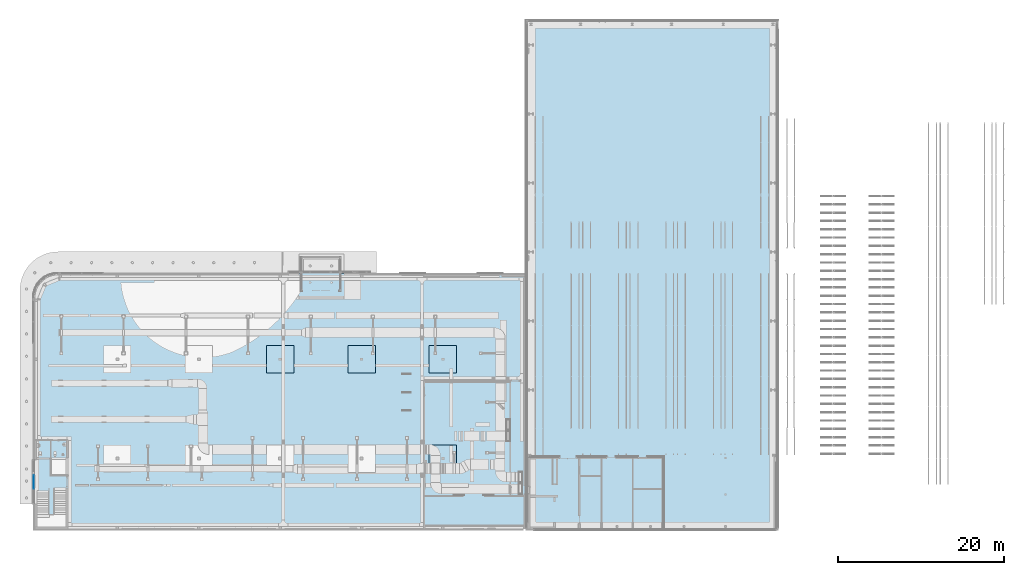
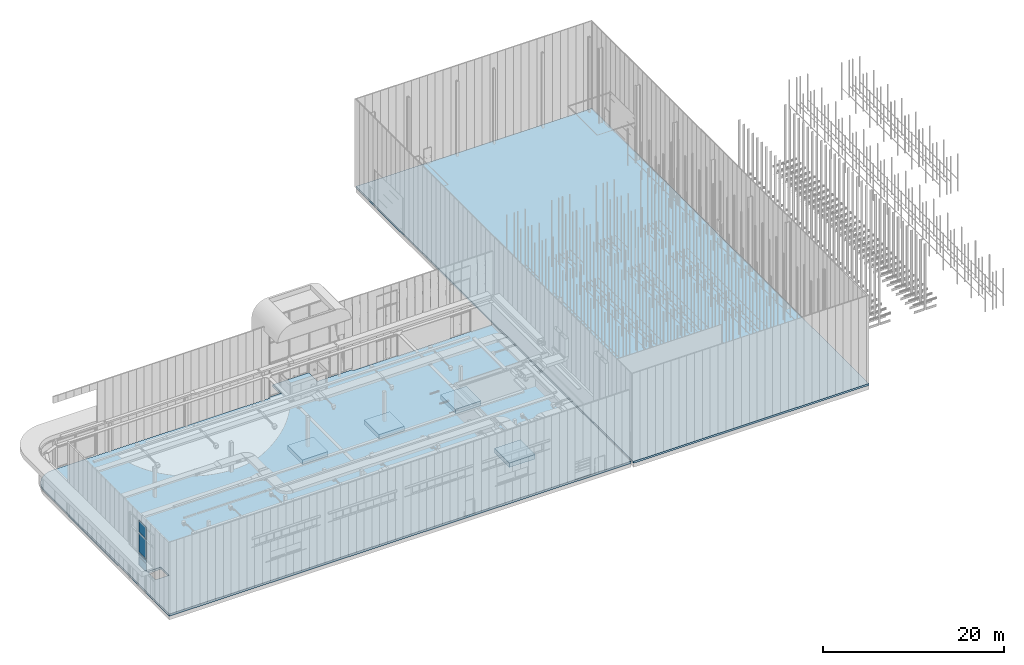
# One storey, part 207 of 302: 6 slabs, 4 plates, 1 opening, 1 element without a shape of its own.
"""IFC2X3 building model written with IfcOpenShell, lengths in metres."""

from ifc_helpers import new_model, entity, si_unit, converted_unit, derived_unit, direction, frame, frame_2d, origin, origin_2d_with_axis, place, context, subcontext, project, spatial, polyline, circle_curve, parameter, trimmed, segment, composite_curve, rectangle, outline, extrude, faceted_brep, source, transform, mapped, material, layer, layer_set, layer_usage, type_object, type_shapes, element, aggregate, save


model = new_model("IFC2X3")

# Units and contexts
model_context = context("Model", 3, precision=1e-05, world=origin(), true_north=direction((6.12303176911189e-17, 1.0)))
body_context = subcontext(model_context, "Body", "Model", "MODEL_VIEW")
ifc_project = project(units=[si_unit("LENGTHUNIT", "METRE"), si_unit("AREAUNIT", "SQUARE_METRE"), si_unit("VOLUMEUNIT", "CUBIC_METRE"), converted_unit("PLANEANGLEUNIT", "DEGREE", entity("IfcRatioMeasure", 0.0174532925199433), si_unit("PLANEANGLEUNIT", "RADIAN"), dimensions=[0, 0, 0, 0, 0, 0, 0]), si_unit("MASSUNIT", "GRAM", prefix="KILO"), derived_unit("MASSDENSITYUNIT", [(si_unit("MASSUNIT", "GRAM", prefix="KILO"), 1), (si_unit("LENGTHUNIT", "METRE"), -3)]), derived_unit("MOMENTOFINERTIAUNIT", [(si_unit("LENGTHUNIT", "METRE"), 4)]), si_unit("TIMEUNIT", "SECOND"), si_unit("FREQUENCYUNIT", "HERTZ"), si_unit("THERMODYNAMICTEMPERATUREUNIT", "DEGREE_CELSIUS"), derived_unit("THERMALTRANSMITTANCEUNIT", [(si_unit("MASSUNIT", "GRAM", prefix="KILO"), 1), (si_unit("THERMODYNAMICTEMPERATUREUNIT", "KELVIN"), -1), (si_unit("TIMEUNIT", "SECOND"), -3)]), derived_unit("VOLUMETRICFLOWRATEUNIT", [(si_unit("LENGTHUNIT", "METRE"), 3), (si_unit("TIMEUNIT", "SECOND"), -1)]), si_unit("ELECTRICCURRENTUNIT", "AMPERE"), si_unit("ELECTRICVOLTAGEUNIT", "VOLT"), si_unit("POWERUNIT", "WATT"), si_unit("FORCEUNIT", "NEWTON", prefix="KILO"), si_unit("ILLUMINANCEUNIT", "LUX"), si_unit("LUMINOUSFLUXUNIT", "LUMEN"), si_unit("LUMINOUSINTENSITYUNIT", "CANDELA"), derived_unit("USERDEFINED", [(si_unit("MASSUNIT", "GRAM", prefix="KILO"), -1), (si_unit("LENGTHUNIT", "METRE"), -2), (si_unit("TIMEUNIT", "SECOND"), 3), (si_unit("LUMINOUSFLUXUNIT", "LUMEN"), 1)]), derived_unit("LINEARVELOCITYUNIT", [(si_unit("LENGTHUNIT", "METRE"), 1), (si_unit("TIMEUNIT", "SECOND"), -1)]), si_unit("PRESSUREUNIT", "PASCAL"), derived_unit("USERDEFINED", [(si_unit("LENGTHUNIT", "METRE"), -2), (si_unit("MASSUNIT", "GRAM", prefix="KILO"), 1), (si_unit("TIMEUNIT", "SECOND"), -2)]), derived_unit("LINEARFORCEUNIT", [(si_unit("MASSUNIT", "GRAM", prefix="KILO"), 1), (si_unit("LENGTHUNIT", "METRE"), 1), (si_unit("TIMEUNIT", "SECOND"), -2), (si_unit("LENGTHUNIT", "METRE"), -1)]), derived_unit("PLANARFORCEUNIT", [(si_unit("MASSUNIT", "GRAM", prefix="KILO"), 1), (si_unit("LENGTHUNIT", "METRE"), 1), (si_unit("TIMEUNIT", "SECOND"), -2), (si_unit("LENGTHUNIT", "METRE"), -2)])], contexts=[model_context])

# Site, building, storey
site_placement = place(None, origin())
site = spatial("IfcSite", under=ifc_project, at=site_placement, Name="Default", CompositionType="ELEMENT")
building_placement = place(site_placement, origin())
building = spatial("IfcBuilding", under=site, at=building_placement, CompositionType="ELEMENT")
storey_placement = place(building_placement, frame((0.0, 0.0, -1.3)))
storey = spatial("IfcBuildingStorey", under=building, at=storey_placement, Name="00_EG", CompositionType="ELEMENT", Elevation=-1.3)

# Slab, opening
ifc_material_1 = material(Name="Concrete, default")
ifc_layer_1 = layer(ifc_material_1, 0.3)
ifc_layer_set_1 = layer_set([ifc_layer_1], Name="Bodenplatte:Bodenplatte 300mm")
ifc_layer_usage_1 = layer_usage(ifc_layer_set_1, "AXIS3", "POSITIVE", 0.0)
slab_type_1 = type_object("IfcSlabType", Name="Bodenplatte:Bodenplatte 300mm", PredefinedType="BASESLAB", material=ifc_layer_set_1)
slab_1_placement = place(storey_placement, frame((-266.660111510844, 14.998088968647, 0.969999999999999)))
slab_1 = element("IfcSlab", 1, at=slab_1_placement, inside=storey, type_object=slab_type_1, material=ifc_layer_usage_1, Name="Bodenplatte:Bodenplatte 300mm", ObjectType="Bodenplatte:Bodenplatte 300mm", PredefinedType="BASESLAB", context=body_context, shape_type="SweptSolid", body=[
    extrude(outline(composite_curve([segment(polyline([(-29.535, -16.3300001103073), (29.535, -16.3300001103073)]), True, "CONTINUOUS"), segment(polyline([(29.535, -16.3300001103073), (29.5349999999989, 11.4099998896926)]), True, "CONTINUOUS"), segment(trimmed(circle_curve(frame_2d((26.7149999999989, 11.4099998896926), x_axis=(-1.0, 0.0)), 2.81999999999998), [parameter(180.0)], [parameter(270.0)], True, "PARAMETER"), True, "CONTINUOUS"), segment(polyline([(26.7149999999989, 14.2299998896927), (-0.926249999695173, 14.2299998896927)]), True, "CONTINUOUS"), segment(polyline([(-0.926249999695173, 14.2299998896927), (-0.926249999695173, 14.4099998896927)]), True, "CONTINUOUS"), segment(polyline([(-0.926249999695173, 14.4099998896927), (-2.55525000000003, 14.4099998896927)]), True, "CONTINUOUS"), segment(polyline([(-2.55525000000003, 14.4099998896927), (-2.55525000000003, 16.3300001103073)]), True, "CONTINUOUS"), segment(polyline([(-2.55525000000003, 16.3300001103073), (-7.18724999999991, 16.3300001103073)]), True, "CONTINUOUS"), segment(polyline([(-7.18724999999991, 16.3300001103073), (-7.18724999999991, 14.4099998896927)]), True, "CONTINUOUS"), segment(polyline([(-7.18724999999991, 14.4099998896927), (-11.5902799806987, 14.4099998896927)]), True, "CONTINUOUS"), segment(polyline([(-11.5902799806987, 14.4099998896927), (-11.5902799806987, 14.2299998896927)]), True, "CONTINUOUS"), segment(polyline([(-11.5902799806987, 14.2299998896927), (-29.535, 14.2299998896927)]), True, "CONTINUOUS"), segment(polyline([(-29.535, 14.2299998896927), (-29.535, -16.3300001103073)]), True, "CONTINUOUS")], self_intersect=False)), frame((29.535, 16.3300001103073, 0.3), z_axis=(0.0, 0.0, -1.0), x_axis=(-1.0, 0.0, 0.0)), (0.0, 0.0, 1.0), 0.3),
])
opening_placement = place(slab_1_placement, frame((2.87499999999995, 7.425, 0.3)))
element("IfcOpeningElement", 2, at=opening_placement, cuts=slab_1, Name="Bodenplatte:Bodenplatte 300mm:2", ObjectType="Opening", context=body_context, shape_type="SweptSolid", body=[
    extrude(rectangle(XDim=1.8, YDim=1.74999999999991, at=origin_2d_with_axis()), frame((0.0, 0.0, 0.0), z_axis=(0.0, 0.0, -1.0), x_axis=(0.0, 1.0, 0.0)), (0.0, 0.0, 1.0), 0.3),
])

# Slabs
ifc_material_2 = material(Name="Concrete, Einzelfundament")
slab_type_2 = type_object("IfcSlabType", Name="Einzelfundament:Einzelfundament 3.30mx3.30m", PredefinedType="BASESLAB", material=ifc_material_2)
slab_2_placement = place(storey_placement, origin())
element("IfcSlab", 3, at=slab_2_placement, inside=storey, type_object=slab_type_2, Name="Einzelfundament:Einzelfundament 3.30mx3.30m", ObjectType="Einzelfundament:Einzelfundament 3.30mx3.30m", PredefinedType="BASESLAB", context=body_context, shape_type="SweptSolid", body=[
    extrude(rectangle(XDim=3.30000000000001, YDim=3.3, at=frame_2d((0.0, -2.1094237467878e-15), x_axis=(1.0, 0.0))), frame((-217.572611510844, 35.408088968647, 0.37), z_axis=(0.0, 0.0, 1.0), x_axis=(-1.0, 0.0, 0.0)), (0.0, 0.0, 1.0), 0.6),
])
slab_type_3 = type_object("IfcSlabType", Name="Einzelfundament:Einzelfundament 3.30mx3.30m", PredefinedType="BASESLAB", material=ifc_material_2)
slab_3_placement = place(storey_placement, origin())
element("IfcSlab", 4, at=slab_3_placement, inside=storey, type_object=slab_type_3, Name="Einzelfundament:Einzelfundament 3.30mx3.30m", ObjectType="Einzelfundament:Einzelfundament 3.30mx3.30m", PredefinedType="BASESLAB", context=body_context, shape_type="SweptSolid", body=[
    extrude(rectangle(XDim=3.30000000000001, YDim=3.3, at=frame_2d((0.0, -2.1094237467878e-15), x_axis=(1.0, 0.0))), frame((-227.360111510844, 35.4080889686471, 0.37), z_axis=(0.0, 0.0, 1.0), x_axis=(-1.0, 0.0, 0.0)), (0.0, 0.0, 1.0), 0.6),
])
slab_type_4 = type_object("IfcSlabType", Name="Einzelfundament:Einzelfundament 3.30mx3.30m", PredefinedType="BASESLAB", material=ifc_material_2)
slab_4_placement = place(storey_placement, origin())
element("IfcSlab", 5, at=slab_4_placement, inside=storey, type_object=slab_type_4, Name="Einzelfundament:Einzelfundament 3.30mx3.30m", ObjectType="Einzelfundament:Einzelfundament 3.30mx3.30m", PredefinedType="BASESLAB", context=body_context, shape_type="SweptSolid", body=[
    extrude(rectangle(XDim=3.30000000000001, YDim=3.3, at=frame_2d((0.0, 2.1094237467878e-15), x_axis=(1.0, 0.0))), frame((-237.147611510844, 35.4080889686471, 0.37), z_axis=(0.0, 0.0, 1.0), x_axis=(-1.0, 0.0, 0.0)), (0.0, 0.0, 1.0), 0.6),
])
slab_type_5 = type_object("IfcSlabType", Name="Einzelfundament:Einzelfundament 3.30mx3.30m", PredefinedType="BASESLAB", material=ifc_material_2)
slab_5_placement = place(storey_placement, origin())
element("IfcSlab", 6, at=slab_5_placement, inside=storey, type_object=slab_type_5, Name="Einzelfundament:Einzelfundament 3.30mx3.30m", ObjectType="Einzelfundament:Einzelfundament 3.30mx3.30m", PredefinedType="BASESLAB", context=body_context, shape_type="SweptSolid", body=[
    extrude(rectangle(XDim=3.30000000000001, YDim=3.3, at=frame_2d((0.0, -2.1094237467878e-15), x_axis=(1.0, 0.0))), frame((-217.572611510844, 23.448088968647, 0.37), z_axis=(0.0, 0.0, 1.0), x_axis=(-1.0, 0.0, 0.0)), (0.0, 0.0, 1.0), 0.6),
])

# Curtain wall, plates
curtain_wall_type = type_object("IfcCurtainWallType", Name="Fassade:Sandwichpaneele 16cm", PredefinedType="NOTDEFINED")
curtain_wall_placement = place(storey_placement, frame((0.0, 0.0, 1.3)))
curtain_wall = element("IfcCurtainWall", 7, at=curtain_wall_placement, inside=storey, type_object=curtain_wall_type, Name="Fassade:Sandwichpaneele 16cm", ObjectType="Fassade:Sandwichpaneele 16cm")
ifc_material_3 = material(Name="Glass")
plate_type_1 = type_object("IfcPlateType", Name="System Panel:Glazed", PredefinedType="CURTAIN_PANEL", material=ifc_material_3)
shared_shape_1 = source(origin(), body_context, "Body", "Brep", [
    faceted_brep([(-0.827500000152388, 0.0, 0.0), (-0.832499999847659, 0.0, 0.0), (-0.832499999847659, 0.0, 0.0400000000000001), (0.167500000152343, 0.0, 0.0400000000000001), (0.832499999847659, 0.0, 0.0400000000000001), (0.832499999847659, 0.0, 1.06), (0.167500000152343, 0.0, 1.06), (-0.832499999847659, 0.0, 1.06), (-0.832499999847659, 0.0, 1.1), (-0.827500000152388, 0.0, 1.1), (-0.827500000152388, 0.0350000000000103, 0.0), (-0.827500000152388, 0.0350000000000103, 1.1), (-0.832499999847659, 0.0350000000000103, 1.1), (-0.832499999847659, 0.0350000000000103, 1.06), (0.167500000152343, 0.0350000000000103, 1.06), (0.832499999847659, 0.0350000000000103, 1.06), (0.832499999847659, 0.0350000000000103, 0.0400000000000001), (0.167500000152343, 0.0350000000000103, 0.0400000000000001), (-0.832499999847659, 0.0350000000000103, 0.0400000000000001), (-0.832499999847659, 0.0350000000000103, 0.0)], [[[0, 1, 2, 3, 4, 5, 6, 7, 8, 9]], [[10, 11, 12, 13, 14, 15, 16, 17, 18, 19]], [[1, 0, 10, 19]], [[2, 1, 19, 18]], [[3, 2, 18, 17]], [[4, 3, 17, 16]], [[5, 4, 16, 15]], [[6, 5, 15, 14]], [[7, 6, 14, 13]], [[8, 7, 13, 12]], [[9, 8, 12, 11]], [[0, 9, 11, 10]]]),
])
type_shapes(plate_type_1, [shared_shape_1])
plate_1_placement = place(curtain_wall_placement, frame((-266.760111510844, 20.6505889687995, 2.77), z_axis=(0.0, 0.0, 1.0), x_axis=(0.0, 1.0, 0.0)))
plate_1 = element("IfcPlate", 8, at=plate_1_placement, type_object=plate_type_1, material=ifc_material_3, Name="System Panel:Glazed", ObjectType="System Panel:Glazed", context=body_context, shape_type="MappedRepresentation", body=[
    mapped(shared_shape_1, transform((0.0, 0.0, 0.0), scale=1.0)),
])
plate_type_2 = type_object("IfcPlateType", Name="System Panel:Glazed", PredefinedType="CURTAIN_PANEL", material=ifc_material_3)
shared_shape_2 = source(origin(), body_context, "Body", "Brep", [
    faceted_brep([(-0.827500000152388, 0.0, 0.0), (-0.832499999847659, 0.0, 0.0), (-0.832499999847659, 0.0, 0.0400000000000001), (0.167500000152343, 0.0, 0.0400000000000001), (0.832499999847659, 0.0, 0.0400000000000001), (0.832499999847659, 0.0, 0.56), (0.167500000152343, 0.0, 0.56), (-0.832499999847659, 0.0, 0.56), (-0.832499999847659, 0.0, 0.6), (-0.827500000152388, 0.0, 0.6), (-0.827500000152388, 0.0350000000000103, 0.0), (-0.827500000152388, 0.0350000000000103, 0.6), (-0.832499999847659, 0.0350000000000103, 0.6), (-0.832499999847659, 0.0350000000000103, 0.56), (0.167500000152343, 0.0350000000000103, 0.56), (0.832499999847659, 0.0350000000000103, 0.56), (0.832499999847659, 0.0350000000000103, 0.0400000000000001), (0.167500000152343, 0.0350000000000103, 0.0400000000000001), (-0.832499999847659, 0.0350000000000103, 0.0400000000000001), (-0.832499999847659, 0.0350000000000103, 0.0)], [[[0, 1, 2, 3, 4, 5, 6, 7, 8, 9]], [[10, 11, 12, 13, 14, 15, 16, 17, 18, 19]], [[1, 0, 10, 19]], [[2, 1, 19, 18]], [[3, 2, 18, 17]], [[4, 3, 17, 16]], [[5, 4, 16, 15]], [[6, 5, 15, 14]], [[7, 6, 14, 13]], [[8, 7, 13, 12]], [[9, 8, 12, 11]], [[0, 9, 11, 10]]]),
])
type_shapes(plate_type_2, [shared_shape_2])
plate_2_placement = place(curtain_wall_placement, frame((-266.760111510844, 20.6505889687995, 3.87), z_axis=(0.0, 0.0, 1.0), x_axis=(0.0, 1.0, 0.0)))
plate_2 = element("IfcPlate", 9, at=plate_2_placement, type_object=plate_type_2, material=ifc_material_3, Name="System Panel:Glazed", ObjectType="System Panel:Glazed", context=body_context, shape_type="MappedRepresentation", body=[
    mapped(shared_shape_2, transform((0.0, 0.0, 0.0), scale=1.0)),
])
plate_type_3 = type_object("IfcPlateType", Name="System Panel:Glazed", PredefinedType="CURTAIN_PANEL", material=ifc_material_3)
shared_shape_3 = source(origin(), body_context, "Body", "Brep", [
    faceted_brep([(-0.827500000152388, 0.0, 0.0), (-0.832499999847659, 0.0, 0.0), (-0.832499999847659, 0.0, 0.0400000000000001), (0.167500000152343, 0.0, 0.0400000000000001), (0.832499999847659, 0.0, 0.0400000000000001), (0.832499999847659, 0.0, 2.69), (0.167500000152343, 0.0, 2.69), (-0.832499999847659, 0.0, 2.69), (-0.832499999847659, 0.0, 2.73), (-0.827500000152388, 0.0, 2.73), (-0.827500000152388, 0.0350000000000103, 0.0), (-0.827500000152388, 0.0350000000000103, 2.73), (-0.832499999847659, 0.0350000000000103, 2.73), (-0.832499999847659, 0.0350000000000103, 2.69), (0.167500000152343, 0.0350000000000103, 2.69), (0.832499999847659, 0.0350000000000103, 2.69), (0.832499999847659, 0.0350000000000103, 0.0400000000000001), (0.167500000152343, 0.0350000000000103, 0.0400000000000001), (-0.832499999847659, 0.0350000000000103, 0.0400000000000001), (-0.832499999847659, 0.0350000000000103, 0.0)], [[[0, 1, 2, 3, 4, 5, 6, 7, 8, 9]], [[10, 11, 12, 13, 14, 15, 16, 17, 18, 19]], [[1, 0, 10, 19]], [[2, 1, 19, 18]], [[3, 2, 18, 17]], [[4, 3, 17, 16]], [[5, 4, 16, 15]], [[6, 5, 15, 14]], [[7, 6, 14, 13]], [[8, 7, 13, 12]], [[9, 8, 12, 11]], [[0, 9, 11, 10]]]),
])
type_shapes(plate_type_3, [shared_shape_3])
plate_3_placement = place(curtain_wall_placement, frame((-266.760111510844, 20.6505889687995, 4.47), z_axis=(0.0, 0.0, 1.0), x_axis=(0.0, 1.0, 0.0)))
plate_3 = element("IfcPlate", 10, at=plate_3_placement, type_object=plate_type_3, material=ifc_material_3, Name="System Panel:Glazed", ObjectType="System Panel:Glazed", context=body_context, shape_type="MappedRepresentation", body=[
    mapped(shared_shape_3, transform((0.0, 0.0, 0.0), scale=1.0)),
])
plate_type_4 = type_object("IfcPlateType", Name="System Panel:Glazed", PredefinedType="CURTAIN_PANEL", material=ifc_material_3)
shared_shape_4 = source(origin(), body_context, "Body", "Brep", [
    faceted_brep([(-0.827500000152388, 0.0, 0.0), (-0.832499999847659, 0.0, 0.0), (-0.832499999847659, 0.0, 0.0400000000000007), (0.167500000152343, 0.0, 0.0400000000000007), (0.832499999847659, 0.0, 0.0399999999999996), (0.832499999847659, 0.0, 1.64), (0.167500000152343, 0.0, 1.64), (-0.832499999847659, 0.0, 1.64), (-0.832499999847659, 0.0, 1.68), (-0.827500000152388, 0.0, 1.68), (-0.827500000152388, 0.0350000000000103, 0.0), (-0.827500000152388, 0.0350000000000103, 1.68), (-0.832499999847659, 0.0350000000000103, 1.68), (-0.832499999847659, 0.0350000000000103, 1.64), (0.167500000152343, 0.0350000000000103, 1.64), (0.832499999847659, 0.0350000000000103, 1.64), (0.832499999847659, 0.0350000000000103, 0.0399999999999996), (0.167500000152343, 0.0350000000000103, 0.0399999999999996), (-0.832499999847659, 0.0350000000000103, 0.0400000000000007), (-0.832499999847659, 0.0350000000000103, 0.0)], [[[0, 1, 2, 3, 4, 5, 6, 7, 8, 9]], [[10, 11, 12, 13, 14, 15, 16, 17, 18, 19]], [[1, 0, 10, 19]], [[2, 1, 19, 18]], [[3, 2, 18, 17]], [[4, 3, 17, 16]], [[5, 4, 16, 15]], [[6, 5, 15, 14]], [[7, 6, 14, 13]], [[8, 7, 13, 12]], [[9, 8, 12, 11]], [[0, 9, 11, 10]]]),
])
type_shapes(plate_type_4, [shared_shape_4])
plate_4_placement = place(curtain_wall_placement, frame((-266.760111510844, 20.6505889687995, 7.2), z_axis=(0.0, 0.0, 1.0), x_axis=(0.0, 1.0, 0.0)))
plate_4 = element("IfcPlate", 11, at=plate_4_placement, type_object=plate_type_4, material=ifc_material_3, Name="System Panel:Glazed", ObjectType="System Panel:Glazed", context=body_context, shape_type="MappedRepresentation", body=[
    mapped(shared_shape_4, transform((0.0, 0.0, 0.0), scale=1.0)),
])
aggregate(curtain_wall, [plate_1, plate_2, plate_3, plate_4])

# Slab
ifc_layer_2 = layer(ifc_material_1, 0.25)
ifc_layer_set_2 = layer_set([ifc_layer_2], Name="Bodenplatte:Bodenplatte 250mm")
ifc_layer_usage_2 = layer_usage(ifc_layer_set_2, "AXIS3", "POSITIVE", 0.0)
slab_type_6 = type_object("IfcSlabType", Name="Bodenplatte:Bodenplatte 250mm", PredefinedType="BASESLAB", material=ifc_layer_set_2)
slab_6_placement = place(storey_placement, origin())
element("IfcSlab", 12, at=slab_6_placement, inside=storey, type_object=slab_type_6, material=ifc_layer_usage_2, Name="Bodenplatte:Bodenplatte 250mm", ObjectType="Bodenplatte:Bodenplatte 250mm", PredefinedType="BASESLAB", context=body_context, shape_type="SweptSolid", body=[
    extrude(outline(polyline([(-14.59, -10.0770745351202), (37.99, -10.0770745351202), (37.9900000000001, 20.0935372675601), (-23.4, 20.0935372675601), (-23.4, -10.0164627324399), (-14.59, -10.0164627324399), (-14.59, -10.0770745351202)])), frame((-197.363648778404, 38.218088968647, 1.27), z_axis=(0.0, 0.0, -1.0), x_axis=(0.0, 1.0, 0.0)), (0.0, 0.0, 1.0), 0.25),
])

save(model, "model.ifc")
